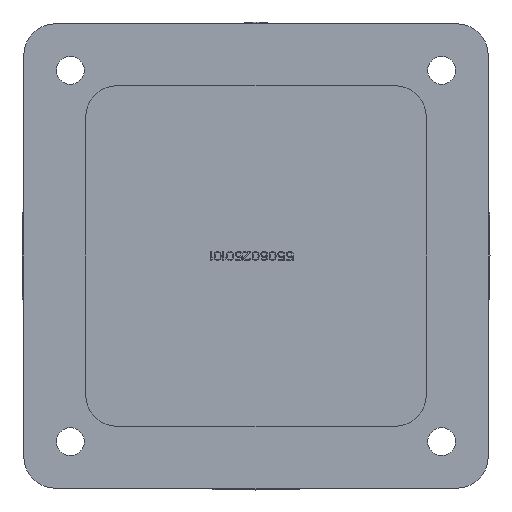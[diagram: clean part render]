
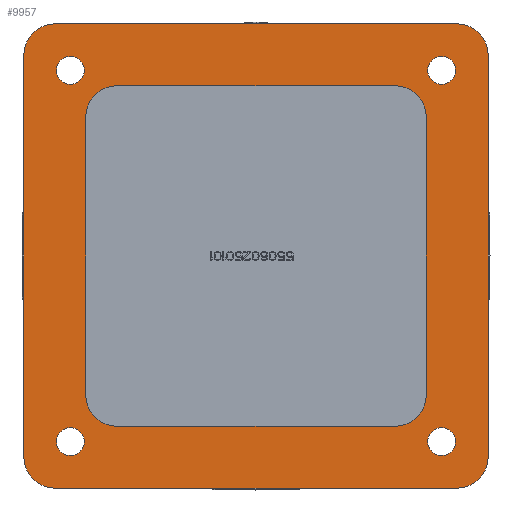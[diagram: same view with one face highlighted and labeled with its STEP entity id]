
A CAD part, front view. The second image highlights one B-rep face of the part: STEP entity #9957.
In plain terms, the highlighted planar face has unit normal (0, -1, 0).
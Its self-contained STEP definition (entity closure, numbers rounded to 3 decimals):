
#2=DIRECTION('',(0.,0.,-1.));
#3=VECTOR('',#2,130.);
#4=CARTESIAN_POINT('',(75.,0.,65.));
#5=LINE('',#4,#3);
#6=DIRECTION('',(-1.,0.,0.));
#7=VECTOR('',#6,130.);
#8=CARTESIAN_POINT('',(65.,0.,-75.));
#9=LINE('',#8,#7);
#10=DIRECTION('',(0.,0.,1.));
#11=VECTOR('',#10,130.);
#12=CARTESIAN_POINT('',(-75.,0.,-65.));
#13=LINE('',#12,#11);
#14=DIRECTION('',(1.,0.,0.));
#15=VECTOR('',#14,130.);
#16=CARTESIAN_POINT('',(-65.,0.,75.));
#17=LINE('',#16,#15);
#18=DIRECTION('',(-1.,0.,0.));
#19=VECTOR('',#18,90.);
#20=CARTESIAN_POINT('',(45.,0.,55.));
#21=LINE('',#20,#19);
#22=DIRECTION('',(0.,0.,-1.));
#23=VECTOR('',#22,90.);
#24=CARTESIAN_POINT('',(-55.,0.,45.));
#25=LINE('',#24,#23);
#26=DIRECTION('',(1.,0.,0.));
#27=VECTOR('',#26,90.);
#28=CARTESIAN_POINT('',(-45.,0.,-55.));
#29=LINE('',#28,#27);
#30=DIRECTION('',(0.,0.,1.));
#31=VECTOR('',#30,90.);
#32=CARTESIAN_POINT('',(55.,0.,-45.));
#33=LINE('',#32,#31);
#34=CARTESIAN_POINT('',(-60.,0.,-60.));
#35=DIRECTION('',(0.,1.,0.));
#36=DIRECTION('',(0.,0.,-1.));
#37=AXIS2_PLACEMENT_3D('',#34,#35,#36);
#39=CARTESIAN_POINT('',(-60.,0.,-60.));
#40=DIRECTION('',(0.,1.,0.));
#41=DIRECTION('',(0.,0.,1.));
#42=AXIS2_PLACEMENT_3D('',#39,#40,#41);
#44=CARTESIAN_POINT('',(-60.,0.,60.));
#45=DIRECTION('',(0.,1.,0.));
#46=DIRECTION('',(0.,0.,-1.));
#47=AXIS2_PLACEMENT_3D('',#44,#45,#46);
#49=CARTESIAN_POINT('',(-60.,0.,60.));
#50=DIRECTION('',(0.,1.,0.));
#51=DIRECTION('',(0.,0.,1.));
#52=AXIS2_PLACEMENT_3D('',#49,#50,#51);
#54=CARTESIAN_POINT('',(60.,0.,60.));
#55=DIRECTION('',(0.,1.,0.));
#56=DIRECTION('',(0.,0.,-1.));
#57=AXIS2_PLACEMENT_3D('',#54,#55,#56);
#59=CARTESIAN_POINT('',(60.,0.,60.));
#60=DIRECTION('',(0.,1.,0.));
#61=DIRECTION('',(0.,0.,1.));
#62=AXIS2_PLACEMENT_3D('',#59,#60,#61);
#64=CARTESIAN_POINT('',(60.,0.,-60.));
#65=DIRECTION('',(0.,1.,0.));
#66=DIRECTION('',(0.,0.,-1.));
#67=AXIS2_PLACEMENT_3D('',#64,#65,#66);
#69=CARTESIAN_POINT('',(60.,0.,-60.));
#70=DIRECTION('',(0.,1.,0.));
#71=DIRECTION('',(0.,0.,1.));
#72=AXIS2_PLACEMENT_3D('',#69,#70,#71);
#87=CARTESIAN_POINT('',(65.,0.,65.));
#88=DIRECTION('',(0.,-1.,0.));
#89=DIRECTION('',(1.,0.,0.));
#90=AXIS2_PLACEMENT_3D('',#87,#88,#89);
#105=CARTESIAN_POINT('',(-65.,0.,65.));
#106=DIRECTION('',(0.,-1.,0.));
#107=DIRECTION('',(0.,0.,1.));
#108=AXIS2_PLACEMENT_3D('',#105,#106,#107);
#123=CARTESIAN_POINT('',(-65.,0.,-65.));
#124=DIRECTION('',(0.,-1.,0.));
#125=DIRECTION('',(-1.,0.,0.));
#126=AXIS2_PLACEMENT_3D('',#123,#124,#125);
#141=CARTESIAN_POINT('',(65.,0.,-65.));
#142=DIRECTION('',(0.,-1.,0.));
#143=DIRECTION('',(0.,0.,-1.));
#144=AXIS2_PLACEMENT_3D('',#141,#142,#143);
#2764=CARTESIAN_POINT('',(45.,0.,45.));
#2765=DIRECTION('',(0.,1.,0.));
#2766=DIRECTION('',(0.,0.,1.));
#2767=AXIS2_PLACEMENT_3D('',#2764,#2765,#2766);
#2782=CARTESIAN_POINT('',(45.,0.,-45.));
#2783=DIRECTION('',(0.,1.,0.));
#2784=DIRECTION('',(1.,0.,0.));
#2785=AXIS2_PLACEMENT_3D('',#2782,#2783,#2784);
#2800=CARTESIAN_POINT('',(-45.,0.,-45.));
#2801=DIRECTION('',(0.,1.,0.));
#2802=DIRECTION('',(0.,0.,-1.));
#2803=AXIS2_PLACEMENT_3D('',#2800,#2801,#2802);
#2818=CARTESIAN_POINT('',(-45.,0.,45.));
#2819=DIRECTION('',(0.,1.,0.));
#2820=DIRECTION('',(-1.,0.,0.));
#2821=AXIS2_PLACEMENT_3D('',#2818,#2819,#2820);
#7641=CARTESIAN_POINT('',(65.,0.,75.));
#7643=VERTEX_POINT('',#7641);
#7646=CARTESIAN_POINT('',(75.,0.,65.));
#7647=VERTEX_POINT('',#7646);
#7649=CARTESIAN_POINT('',(75.,0.,-65.));
#7651=VERTEX_POINT('',#7649);
#7654=CARTESIAN_POINT('',(65.,0.,-75.));
#7655=VERTEX_POINT('',#7654);
#7657=CARTESIAN_POINT('',(-75.,0.,65.));
#7659=VERTEX_POINT('',#7657);
#7662=CARTESIAN_POINT('',(-65.,0.,75.));
#7663=VERTEX_POINT('',#7662);
#7665=CARTESIAN_POINT('',(-65.,0.,-75.));
#7667=VERTEX_POINT('',#7665);
#7670=CARTESIAN_POINT('',(-75.,0.,-65.));
#7671=VERTEX_POINT('',#7670);
#7672=CARTESIAN_POINT('',(45.,0.,55.));
#7674=VERTEX_POINT('',#7672);
#7676=CARTESIAN_POINT('',(55.,0.,45.));
#7678=VERTEX_POINT('',#7676);
#7680=CARTESIAN_POINT('',(-55.,0.,45.));
#7682=VERTEX_POINT('',#7680);
#7684=CARTESIAN_POINT('',(-45.,0.,55.));
#7686=VERTEX_POINT('',#7684);
#7688=CARTESIAN_POINT('',(-45.,0.,-55.));
#7690=VERTEX_POINT('',#7688);
#7692=CARTESIAN_POINT('',(-55.,0.,-45.));
#7694=VERTEX_POINT('',#7692);
#7696=CARTESIAN_POINT('',(55.,0.,-45.));
#7698=VERTEX_POINT('',#7696);
#7700=CARTESIAN_POINT('',(45.,0.,-55.));
#7702=VERTEX_POINT('',#7700);
#7764=CARTESIAN_POINT('',(-60.,0.,-64.5));
#7765=CARTESIAN_POINT('',(-60.,0.,-55.5));
#7766=VERTEX_POINT('',#7764);
#7767=VERTEX_POINT('',#7765);
#7768=CARTESIAN_POINT('',(-60.,0.,55.5));
#7769=CARTESIAN_POINT('',(-60.,0.,64.5));
#7770=VERTEX_POINT('',#7768);
#7771=VERTEX_POINT('',#7769);
#7772=CARTESIAN_POINT('',(60.,0.,55.5));
#7773=CARTESIAN_POINT('',(60.,0.,64.5));
#7774=VERTEX_POINT('',#7772);
#7775=VERTEX_POINT('',#7773);
#7776=CARTESIAN_POINT('',(60.,0.,-64.5));
#7777=CARTESIAN_POINT('',(60.,0.,-55.5));
#7778=VERTEX_POINT('',#7776);
#7779=VERTEX_POINT('',#7777);
#9892=CARTESIAN_POINT('',(0.,0.,0.));
#9893=DIRECTION('',(0.,1.,0.));
#9894=DIRECTION('',(1.,0.,0.));
#9895=AXIS2_PLACEMENT_3D('',#9892,#9893,#9894);
#9896=PLANE('',#9895);
#9898=ORIENTED_EDGE('',*,*,#9897,.F.);
#9900=ORIENTED_EDGE('',*,*,#9899,.T.);
#9902=ORIENTED_EDGE('',*,*,#9901,.F.);
#9904=ORIENTED_EDGE('',*,*,#9903,.T.);
#9906=ORIENTED_EDGE('',*,*,#9905,.F.);
#9908=ORIENTED_EDGE('',*,*,#9907,.T.);
#9910=ORIENTED_EDGE('',*,*,#9909,.F.);
#9912=ORIENTED_EDGE('',*,*,#9911,.T.);
#9913=EDGE_LOOP('',(#9898,#9900,#9902,#9904,#9906,#9908,#9910,#9912));
#9914=FACE_OUTER_BOUND('',#9913,.F.);
#9916=ORIENTED_EDGE('',*,*,#9915,.T.);
#9918=ORIENTED_EDGE('',*,*,#9917,.F.);
#9920=ORIENTED_EDGE('',*,*,#9919,.T.);
#9922=ORIENTED_EDGE('',*,*,#9921,.F.);
#9924=ORIENTED_EDGE('',*,*,#9923,.T.);
#9926=ORIENTED_EDGE('',*,*,#9925,.F.);
#9928=ORIENTED_EDGE('',*,*,#9927,.T.);
#9930=ORIENTED_EDGE('',*,*,#9929,.F.);
#9931=EDGE_LOOP('',(#9916,#9918,#9920,#9922,#9924,#9926,#9928,#9930));
#9932=FACE_BOUND('',#9931,.F.);
#9934=ORIENTED_EDGE('',*,*,#9933,.F.);
#9936=ORIENTED_EDGE('',*,*,#9935,.F.);
#9937=EDGE_LOOP('',(#9934,#9936));
#9938=FACE_BOUND('',#9937,.F.);
#9940=ORIENTED_EDGE('',*,*,#9939,.F.);
#9942=ORIENTED_EDGE('',*,*,#9941,.F.);
#9943=EDGE_LOOP('',(#9940,#9942));
#9944=FACE_BOUND('',#9943,.F.);
#9946=ORIENTED_EDGE('',*,*,#9945,.F.);
#9948=ORIENTED_EDGE('',*,*,#9947,.F.);
#9949=EDGE_LOOP('',(#9946,#9948));
#9950=FACE_BOUND('',#9949,.F.);
#9952=ORIENTED_EDGE('',*,*,#9951,.F.);
#9954=ORIENTED_EDGE('',*,*,#9953,.F.);
#9955=EDGE_LOOP('',(#9952,#9954));
#9956=FACE_BOUND('',#9955,.F.);
#9957=ADVANCED_FACE('',(#9914,#9932,#9938,#9944,#9950,#9956),#9896,.F.);
#38=CIRCLE('',#37,4.5);
#43=CIRCLE('',#42,4.5);
#48=CIRCLE('',#47,4.5);
#53=CIRCLE('',#52,4.5);
#58=CIRCLE('',#57,4.5);
#63=CIRCLE('',#62,4.5);
#68=CIRCLE('',#67,4.5);
#73=CIRCLE('',#72,4.5);
#91=CIRCLE('',#90,10.);
#109=CIRCLE('',#108,10.);
#127=CIRCLE('',#126,10.);
#145=CIRCLE('',#144,10.);
#2768=CIRCLE('',#2767,10.);
#2786=CIRCLE('',#2785,10.);
#2804=CIRCLE('',#2803,10.);
#2822=CIRCLE('',#2821,10.);
#9897=EDGE_CURVE('',#7647,#7643,#91,.T.);
#9899=EDGE_CURVE('',#7647,#7651,#5,.T.);
#9901=EDGE_CURVE('',#7655,#7651,#145,.T.);
#9903=EDGE_CURVE('',#7655,#7667,#9,.T.);
#9905=EDGE_CURVE('',#7671,#7667,#127,.T.);
#9907=EDGE_CURVE('',#7671,#7659,#13,.T.);
#9909=EDGE_CURVE('',#7663,#7659,#109,.T.);
#9911=EDGE_CURVE('',#7663,#7643,#17,.T.);
#9915=EDGE_CURVE('',#7674,#7686,#21,.T.);
#9917=EDGE_CURVE('',#7682,#7686,#2822,.T.);
#9919=EDGE_CURVE('',#7682,#7694,#25,.T.);
#9921=EDGE_CURVE('',#7690,#7694,#2804,.T.);
#9923=EDGE_CURVE('',#7690,#7702,#29,.T.);
#9925=EDGE_CURVE('',#7698,#7702,#2786,.T.);
#9927=EDGE_CURVE('',#7698,#7678,#33,.T.);
#9929=EDGE_CURVE('',#7674,#7678,#2768,.T.);
#9933=EDGE_CURVE('',#7766,#7767,#38,.T.);
#9935=EDGE_CURVE('',#7767,#7766,#43,.T.);
#9939=EDGE_CURVE('',#7770,#7771,#48,.T.);
#9941=EDGE_CURVE('',#7771,#7770,#53,.T.);
#9945=EDGE_CURVE('',#7774,#7775,#58,.T.);
#9947=EDGE_CURVE('',#7775,#7774,#63,.T.);
#9951=EDGE_CURVE('',#7778,#7779,#68,.T.);
#9953=EDGE_CURVE('',#7779,#7778,#73,.T.);
